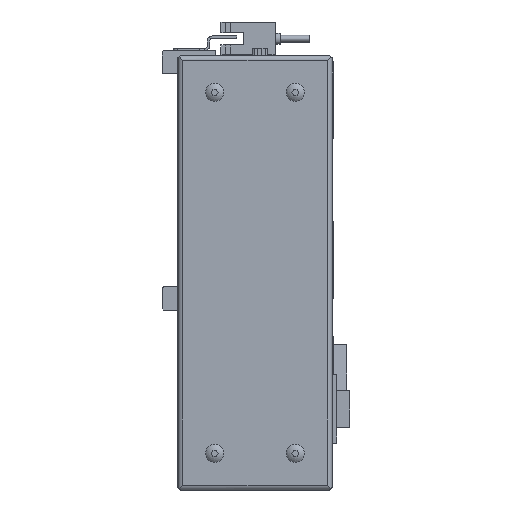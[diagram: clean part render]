
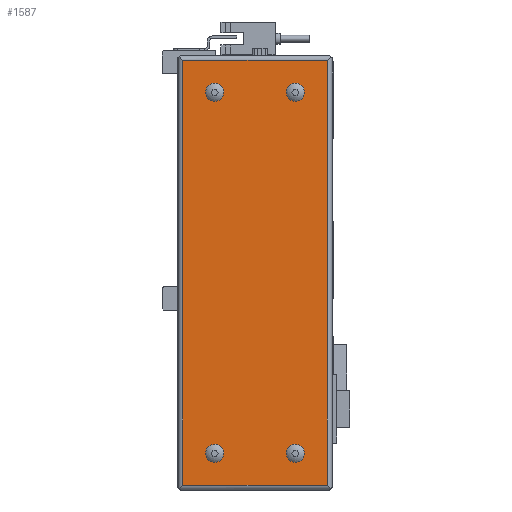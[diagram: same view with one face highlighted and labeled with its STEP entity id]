
A CAD part, left-side view. The second image highlights one B-rep face of the part: STEP entity #1587.
In plain terms, the highlighted planar face has unit normal (-1, 0, 0).
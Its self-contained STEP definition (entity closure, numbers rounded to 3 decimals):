
#1587 = ADVANCED_FACE( '', ( #3542, #3543, #3544, #3545, #3546 ), #3547, .F. );
#3542 = FACE_BOUND( '', #5947, .T. );
#3543 = FACE_BOUND( '', #5948, .T. );
#3544 = FACE_BOUND( '', #5949, .T. );
#3545 = FACE_BOUND( '', #5950, .T. );
#3546 = FACE_OUTER_BOUND( '', #5951, .T. );
#3547 = PLANE( '', #5952 );
#5947 = EDGE_LOOP( '', ( #10352 ) );
#5948 = EDGE_LOOP( '', ( #10353 ) );
#5949 = EDGE_LOOP( '', ( #10354 ) );
#5950 = EDGE_LOOP( '', ( #10355 ) );
#5951 = EDGE_LOOP( '', ( #10356, #10357, #10358, #10359 ) );
#5952 = AXIS2_PLACEMENT_3D( '', #10360, #10361, #10362 );
#10352 = ORIENTED_EDGE( '', *, *, #14997, .F. );
#10353 = ORIENTED_EDGE( '', *, *, #15488, .F. );
#10354 = ORIENTED_EDGE( '', *, *, #15056, .F. );
#10355 = ORIENTED_EDGE( '', *, *, #15489, .F. );
#10356 = ORIENTED_EDGE( '', *, *, #15490, .F. );
#10357 = ORIENTED_EDGE( '', *, *, #14598, .F. );
#10358 = ORIENTED_EDGE( '', *, *, #14565, .T. );
#10359 = ORIENTED_EDGE( '', *, *, #15030, .T. );
#10360 = CARTESIAN_POINT( '', ( -52., 0., 0. ) );
#10361 = DIRECTION( '', ( 1., 0., 0. ) );
#10362 = DIRECTION( '', ( 0., 0., -1. ) );
#14565 = EDGE_CURVE( '', #17692, #17693, #17694, .T. );
#14598 = EDGE_CURVE( '', #17692, #17747, #17748, .T. );
#14997 = EDGE_CURVE( '', #18384, #18384, #18385, .F. );
#15030 = EDGE_CURVE( '', #17693, #18433, #18435, .T. );
#15056 = EDGE_CURVE( '', #18474, #18474, #18475, .F. );
#15488 = EDGE_CURVE( '', #19120, #19120, #19121, .F. );
#15489 = EDGE_CURVE( '', #19122, #19122, #19123, .F. );
#15490 = EDGE_CURVE( '', #17747, #18433, #19124, .T. );
#17692 = VERTEX_POINT( '', #22239 );
#17693 = VERTEX_POINT( '', #22240 );
#17694 = LINE( '', #22241, #22242 );
#17747 = VERTEX_POINT( '', #22317 );
#17748 = LINE( '', #22318, #22319 );
#18384 = VERTEX_POINT( '', #23259 );
#18385 = CIRCLE( '', #23260, 3.7 );
#18433 = VERTEX_POINT( '', #23326 );
#18435 = LINE( '', #23328, #23329 );
#18474 = VERTEX_POINT( '', #23385 );
#18475 = CIRCLE( '', #23386, 3.7 );
#19120 = VERTEX_POINT( '', #24352 );
#19121 = CIRCLE( '', #24353, 3.7 );
#19122 = VERTEX_POINT( '', #24354 );
#19123 = CIRCLE( '', #24355, 3.7 );
#19124 = LINE( '', #24356, #24357 );
#22239 = CARTESIAN_POINT( '', ( -52., 61.5, 49. ) );
#22240 = CARTESIAN_POINT( '', ( -52., 61.5, -124.5 ) );
#22241 = CARTESIAN_POINT( '', ( -52., 61.5, 177.5 ) );
#22242 = VECTOR( '', #26773, 1000. );
#22317 = CARTESIAN_POINT( '', ( -52., 2.5, 49. ) );
#22318 = CARTESIAN_POINT( '', ( -52., 177.5, 49. ) );
#22319 = VECTOR( '', #26808, 1000. );
#23259 = CARTESIAN_POINT( '', ( -52., 48.5, -115.2 ) );
#23260 = AXIS2_PLACEMENT_3D( '', #27277, #27278, #27279 );
#23326 = CARTESIAN_POINT( '', ( -52., 2.5, -124.5 ) );
#23328 = CARTESIAN_POINT( '', ( -52., 177.5, -124.5 ) );
#23329 = VECTOR( '', #27316, 1000. );
#23385 = CARTESIAN_POINT( '', ( -52., 15.5, -115.2 ) );
#23386 = AXIS2_PLACEMENT_3D( '', #27352, #27353, #27354 );
#24352 = CARTESIAN_POINT( '', ( -52., 15.5, 32.3 ) );
#24353 = AXIS2_PLACEMENT_3D( '', #27836, #27837, #27838 );
#24354 = CARTESIAN_POINT( '', ( -52., 48.5, 32.3 ) );
#24355 = AXIS2_PLACEMENT_3D( '', #27839, #27840, #27841 );
#24356 = CARTESIAN_POINT( '', ( -52., 2.5, 177.5 ) );
#24357 = VECTOR( '', #27842, 1000. );
#26773 = DIRECTION( '', ( 0., 0., -1. ) );
#26808 = DIRECTION( '', ( 0., -1., 0. ) );
#27277 = CARTESIAN_POINT( '', ( -52., 48.5, -111.5 ) );
#27278 = DIRECTION( '', ( 1., 0., 0. ) );
#27279 = DIRECTION( '', ( 0., 0., -1. ) );
#27316 = DIRECTION( '', ( 0., -1., 0. ) );
#27352 = CARTESIAN_POINT( '', ( -52., 15.5, -111.5 ) );
#27353 = DIRECTION( '', ( 1., 0., 0. ) );
#27354 = DIRECTION( '', ( 0., 0., -1. ) );
#27836 = CARTESIAN_POINT( '', ( -52., 15.5, 36. ) );
#27837 = DIRECTION( '', ( 1., 0., 0. ) );
#27838 = DIRECTION( '', ( 0., 0., -1. ) );
#27839 = CARTESIAN_POINT( '', ( -52., 48.5, 36. ) );
#27840 = DIRECTION( '', ( 1., 0., 0. ) );
#27841 = DIRECTION( '', ( 0., 0., -1. ) );
#27842 = DIRECTION( '', ( 0., 0., -1. ) );
